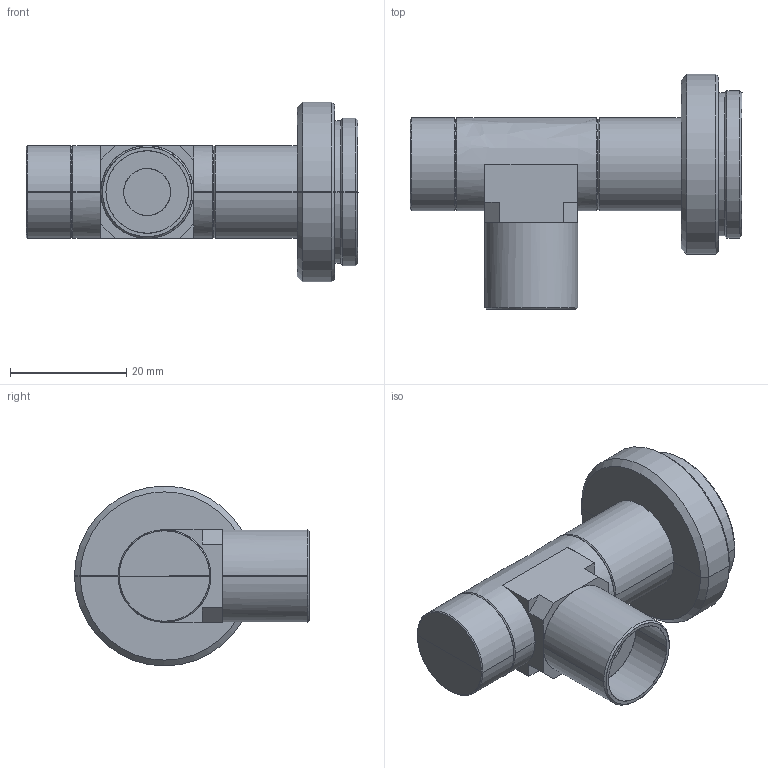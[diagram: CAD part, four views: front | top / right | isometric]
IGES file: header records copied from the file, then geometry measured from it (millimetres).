
Start section: SolidWorks IGES file using analytic representation for surfaces
Bounding box: 57.2 x 40.5 x 31 mm (x, y, z)
Surface area: 6297 mm2 (no closed solid volume)
Topology: 0 solids, 0 shells, 66 faces, 596 edges, 592 vertices
Faces by surface type: revolution 44, bspline 22
